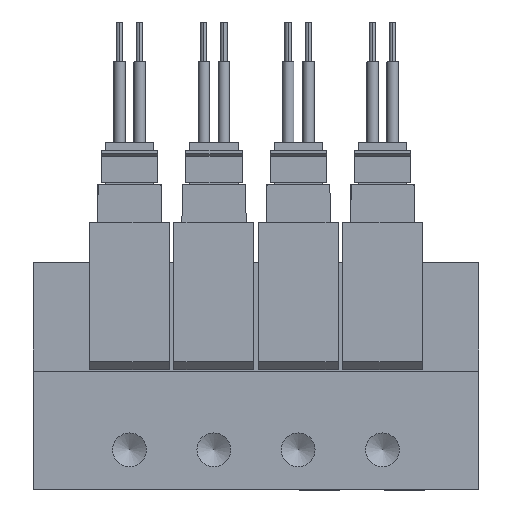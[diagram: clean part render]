
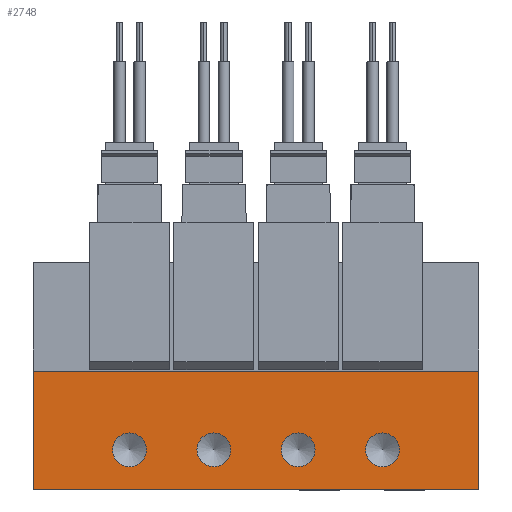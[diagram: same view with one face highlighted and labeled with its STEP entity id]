
A CAD part, front view. The second image highlights one B-rep face of the part: STEP entity #2748.
In plain terms, the highlighted planar face has unit normal (0, -1, 0).
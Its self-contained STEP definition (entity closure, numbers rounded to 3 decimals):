
#2748=ADVANCED_FACE('',(#4438,#4439,#4440,#4441,#4442),#4443,.F.);
#4438=FACE_BOUND('',#7946,.T.);
#4439=FACE_BOUND('',#7947,.T.);
#4440=FACE_BOUND('',#7948,.T.);
#4441=FACE_BOUND('',#7949,.T.);
#4442=FACE_OUTER_BOUND('',#7950,.T.);
#4443=PLANE('',#7951);
#7946=EDGE_LOOP('',(#12362));
#7947=EDGE_LOOP('',(#12363));
#7948=EDGE_LOOP('',(#12364));
#7949=EDGE_LOOP('',(#12365));
#7950=EDGE_LOOP('',(#12366,#12367,#12368,#12369));
#7951=AXIS2_PLACEMENT_3D('',#12370,#12371,#12372);
#12362=ORIENTED_EDGE('',*,*,#25748,.F.);
#12363=ORIENTED_EDGE('',*,*,#25771,.F.);
#12364=ORIENTED_EDGE('',*,*,#25772,.F.);
#12365=ORIENTED_EDGE('',*,*,#25773,.F.);
#12366=ORIENTED_EDGE('',*,*,#25774,.F.);
#12367=ORIENTED_EDGE('',*,*,#25775,.F.);
#12368=ORIENTED_EDGE('',*,*,#25776,.T.);
#12369=ORIENTED_EDGE('',*,*,#25769,.T.);
#12370=CARTESIAN_POINT('',(-55.5,0.,14.8));
#12371=DIRECTION('',(0.0,1.0,0.));
#12372=DIRECTION('',(0.0,0.,1.0));
#25748=EDGE_CURVE('',#30096,#30096,#30097,.T.);
#25769=EDGE_CURVE('',#30135,#30133,#30136,.T.);
#25771=EDGE_CURVE('',#30138,#30138,#30139,.T.);
#25772=EDGE_CURVE('',#30140,#30140,#30141,.T.);
#25773=EDGE_CURVE('',#30142,#30142,#30143,.T.);
#25774=EDGE_CURVE('',#30144,#30133,#30145,.T.);
#25775=EDGE_CURVE('',#30146,#30144,#30147,.T.);
#25776=EDGE_CURVE('',#30146,#30135,#30148,.T.);
#30096=VERTEX_POINT('',#37444);
#30097=CIRCLE('',#37445,2.1);
#30133=VERTEX_POINT('',#37494);
#30135=VERTEX_POINT('',#37497);
#30136=LINE('',#37498,#37499);
#30138=VERTEX_POINT('',#37502);
#30139=CIRCLE('',#37503,2.1);
#30140=VERTEX_POINT('',#37504);
#30141=CIRCLE('',#37505,2.1);
#30142=VERTEX_POINT('',#37506);
#30143=CIRCLE('',#37507,2.1);
#30144=VERTEX_POINT('',#37508);
#30145=LINE('',#37509,#37510);
#30146=VERTEX_POINT('',#37511);
#30147=LINE('',#37512,#37513);
#30148=LINE('',#37514,#37515);
#37444=CARTESIAN_POINT('',(-43.5,0.,2.9));
#37445=AXIS2_PLACEMENT_3D('',#47997,#47998,#47999);
#37494=CARTESIAN_POINT('',(0.0,0.0,0.0));
#37497=CARTESIAN_POINT('',(-55.5,0.0,0.0));
#37498=CARTESIAN_POINT('',(-55.5,0.0,0.0));
#37499=VECTOR('',#48032,1.0);
#37502=CARTESIAN_POINT('',(-33.0,0.,2.9));
#37503=AXIS2_PLACEMENT_3D('',#48034,#48035,#48036);
#37504=CARTESIAN_POINT('',(-22.5,0.,2.9));
#37505=AXIS2_PLACEMENT_3D('',#48037,#48038,#48039);
#37506=CARTESIAN_POINT('',(-12.0,0.,2.9));
#37507=AXIS2_PLACEMENT_3D('',#48040,#48041,#48042);
#37508=CARTESIAN_POINT('',(0.0,0.,14.8));
#37509=CARTESIAN_POINT('',(0.0,0.,14.8));
#37510=VECTOR('',#48043,1.0);
#37511=CARTESIAN_POINT('',(-55.5,0.,14.8));
#37512=CARTESIAN_POINT('',(-55.5,0.,14.8));
#37513=VECTOR('',#48044,1.0);
#37514=CARTESIAN_POINT('',(-55.5,0.,14.8));
#37515=VECTOR('',#48045,1.0);
#47997=CARTESIAN_POINT('',(-43.5,0.0,5.0));
#47998=DIRECTION('',(0.0,-1.0,0.));
#47999=DIRECTION('',(0.0,0.,-1.0));
#48032=DIRECTION('',(1.0,0.0,0.0));
#48034=CARTESIAN_POINT('',(-33.0,0.0,5.0));
#48035=DIRECTION('',(0.0,-1.0,0.));
#48036=DIRECTION('',(0.0,0.,-1.0));
#48037=CARTESIAN_POINT('',(-22.5,0.0,5.0));
#48038=DIRECTION('',(0.0,-1.0,0.));
#48039=DIRECTION('',(0.0,0.,-1.0));
#48040=CARTESIAN_POINT('',(-12.0,0.0,5.0));
#48041=DIRECTION('',(0.0,-1.0,0.));
#48042=DIRECTION('',(0.0,0.,-1.0));
#48043=DIRECTION('',(0.0,0.,-1.0));
#48044=DIRECTION('',(1.0,0.0,0.0));
#48045=DIRECTION('',(0.0,0.,-1.0));
